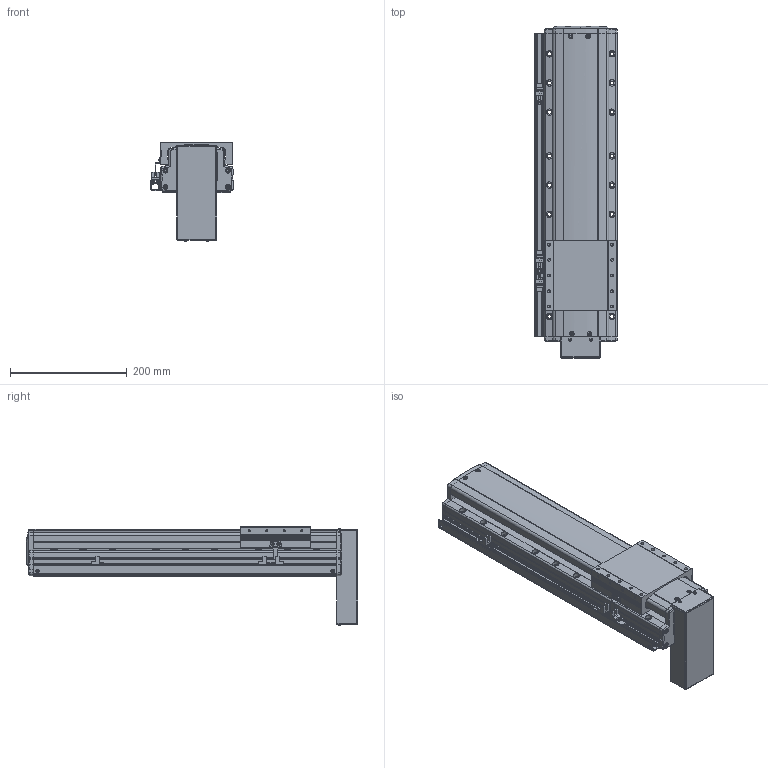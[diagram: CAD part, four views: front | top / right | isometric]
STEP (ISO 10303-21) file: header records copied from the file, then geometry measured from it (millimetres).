
FILE_DESCRIPTION(('STEP AP214'),'1');
FILE_NAME('Z:/Web/3D/PSA125/STP/PSA125-300 (3D)/PSA125ㅁㅁ-300PB+3SL.stp','2014-06-22T23:41:04',(' '),(' '),'Spatial InterOp 3D',' ',' ');
FILE_SCHEMA(('automotive_design'));
Length unit declared in the file: millimetre
Products named in the file (47): 스크루 : Round - M4.0 x 10.0; RRCV-PA120; SLIDE; BASE; FRCV-PA120-1(기준 뿔 제거); RR1500; 스크루 : Round - M4.0 x 6.0; 너트 : Square - M10.0 x 220.7419; 1; 2; 파트105; 스크루 : Round - M3.0 x 6.0; EE-SX674; SBK-SX674-352; M3.0 x 6.0; SRL-16x17-380L; SGD-PA95; 스크루 : Round - M3.0 x 8.0
Bounding box: 141 x 568.6 x 169.06 mm (x, y, z)
Volume: 5023022 mm3; surface area: 531902.8 mm2
Topology: 47 solids, 47 shells, 2595 faces, 6867 edges, 4404 vertices
Faces by surface type: plane 1489, cylinder 704, cone 266, sphere 72, torus 33, bspline 31
Entity records: 103350 total; most frequent: CARTESIAN_POINT 16620, DIRECTION 13836, ORIENTED_EDGE 13474, EDGE_CURVE 6737, AXIS2_PLACEMENT_3D 4660, LINE 4516, VECTOR 4516, VERTEX_POINT 4404
